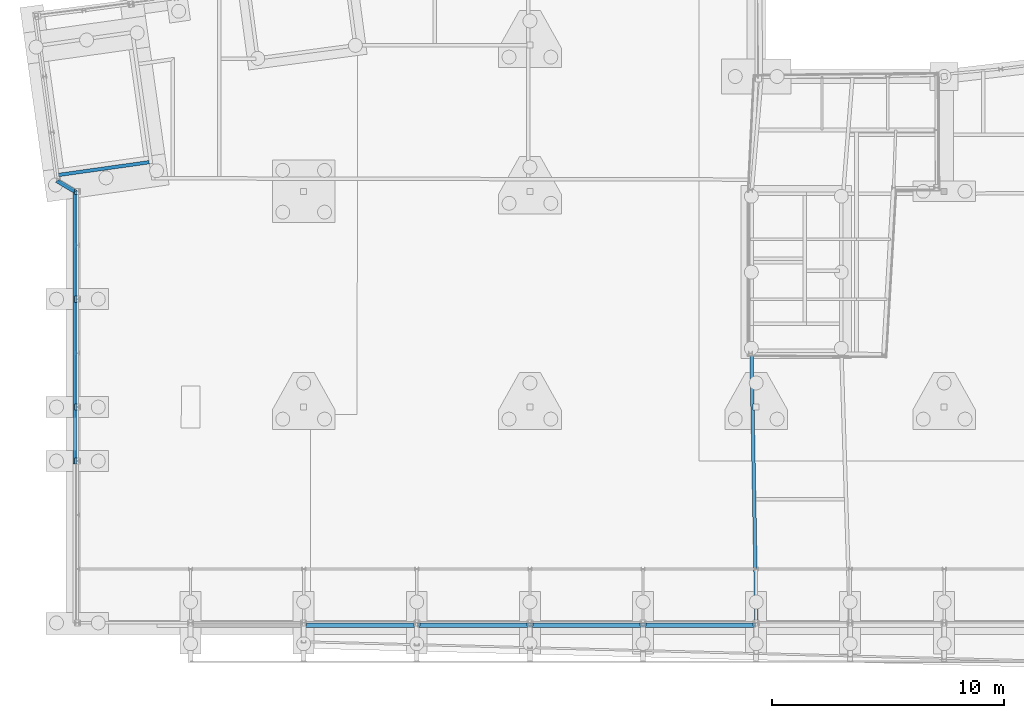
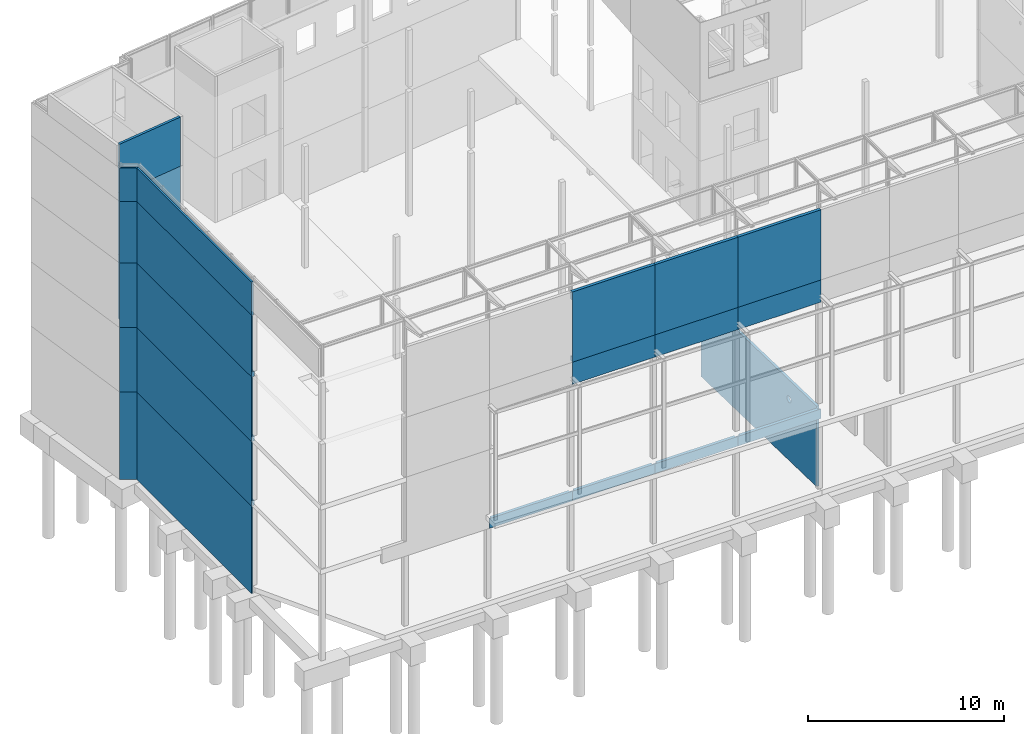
# One storey, part 69 of 82: 24 walls.
"""IFC2X3 building model written with IfcOpenShell, lengths in millimetres."""

from ifc_helpers import new_model, si_unit, frame, frame_2d, origin_with_axes, place, context, subcontext, project, spatial, rectangle, circle, extrude, boolean, clip, halfspace, material, layer, layer_set, layer_usage, type_object, element, save


model = new_model("IFC2X3")

# Units and contexts
model_context = context("Model", 3, precision=1e-05, world=origin_with_axes())
body_context = subcontext(model_context, "Body", "Model", "MODEL_VIEW")
ifc_project = project(units=[si_unit("LENGTHUNIT", "METRE", prefix="MILLI"), si_unit("AREAUNIT", "SQUARE_METRE"), si_unit("VOLUMEUNIT", "CUBIC_METRE"), si_unit("MASSUNIT", "GRAM", prefix="KILO"), si_unit("TIMEUNIT", "SECOND"), si_unit("PLANEANGLEUNIT", "RADIAN"), si_unit("SOLIDANGLEUNIT", "STERADIAN"), si_unit("THERMODYNAMICTEMPERATUREUNIT", "DEGREE_CELSIUS"), si_unit("LUMINOUSINTENSITYUNIT", "LUMEN")], contexts=[model_context])

# Site, building, storey
site_placement = place(None, origin_with_axes())
site = spatial("IfcSite", under=ifc_project, at=site_placement, Name="Undefined", CompositionType="ELEMENT")
building_placement = place(site_placement, origin_with_axes())
building = spatial("IfcBuilding", under=site, at=building_placement, Name="Undefined", CompositionType="ELEMENT")
storey_placement = place(building_placement, origin_with_axes())
storey = spatial("IfcBuildingStorey", under=building, at=storey_placement, Name="Undefined", CompositionType="ELEMENT", Elevation=0.0)

# Walls
ifc_material_1 = material(Name="CONCRETE/C25/30")
wall_type_1 = type_object("IfcWallType", Name="3830*150", PredefinedType="NOTDEFINED")
wall_1_placement = place(storey_placement, frame((3091.37342688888, 19851.8501837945, 13330.0000000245), z_axis=(0.0, 0.0, 1.0), x_axis=(-0.990268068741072, -0.13917310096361, 0.0)))
element("IfcWall", 1, at=wall_1_placement, inside=storey, type_object=wall_type_1, material=ifc_material_1, Name="VOILE_15CM", ObjectType="3830*150", context=body_context, shape_type="Clipping", body=[
    clip(extrude(rectangle(XDim=4034.80419967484, YDim=150.0, at=frame_2d((0.0, 2017.53498920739), x_axis=(0.0, -1.0))), frame((0.0, 0.0, 0.0), z_axis=(0.0, 0.0, 1.0), x_axis=(-2.77555756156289e-17, -1.0, 0.0)), (0.0, 0.0, 1.0), 3830.0), halfspace(frame((3944.80287529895, -3.43170540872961e-08, 915.0), z_axis=(-0.999975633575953, 0.00698084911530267, 0.0), x_axis=(0.00698084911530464, 0.999975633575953, 0.0)), True)),
])
wall_type_2 = type_object("IfcWallType", Name="4025*150", PredefinedType="NOTDEFINED")
wall_2_placement = place(storey_placement, frame((3091.37342688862, 19851.8501837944, 9305.00000002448), z_axis=(0.0, 0.0, 1.0), x_axis=(-0.990268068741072, -0.13917310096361, 0.0)))
element("IfcWall", 2, at=wall_2_placement, inside=storey, type_object=wall_type_2, material=ifc_material_1, Name="VOILE_15CM", ObjectType="4025*150", context=body_context, shape_type="Clipping", body=[
    clip(extrude(rectangle(XDim=4034.80419967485, YDim=150.0, at=frame_2d((0.0, 2017.53498920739), x_axis=(0.0, -1.0))), frame((0.0, 0.0, 0.0), z_axis=(0.0, 0.0, 1.0), x_axis=(-2.77555756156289e-17, -1.0, 0.0)), (0.0, 0.0, 1.0), 4025.0), halfspace(frame((3944.80287529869, -3.43170540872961e-08, 1012.5), z_axis=(-0.999975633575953, 0.00698084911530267, 0.0), x_axis=(0.00698084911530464, 0.999975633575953, 0.0)), True)),
])
wall_type_3 = type_object("IfcWallType", Name="2071*115", PredefinedType="NOTDEFINED")
wall_3_placement = place(storey_placement, frame((-165.609030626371, 18590.8674172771, 16860.0), z_axis=(0.0, 0.0, 1.0), x_axis=(-0.859493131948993, 0.511147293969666, 0.0)))
element("IfcWall", 3, at=wall_3_placement, inside=storey, type_object=wall_type_3, material=ifc_material_1, Name="PANNEAU_FACADE", ObjectType="2071*115", context=body_context, shape_type="Clipping", body=[
    clip(clip(extrude(rectangle(XDim=1461.33181391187, YDim=115.0, at=frame_2d((0.0, 412.072794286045), x_axis=(0.0, -1.0))), frame((0.0, 0.0, 0.0), z_axis=(0.0, 0.0, 1.0), x_axis=(-2.77555756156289e-17, -1.0, 0.0)), (0.0, 0.0, 1.0), 2071.0), halfspace(frame((884.683329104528, 57.5000000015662, 1035.50000000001), z_axis=(-0.900091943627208, 0.435700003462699, 0.0), x_axis=(0.0, 0.0, 1.0)), True)), halfspace(frame((3.31783667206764e-09, 57.5000000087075, 1035.5), z_axis=(-0.869237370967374, 0.494394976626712, 0.0), x_axis=(0.0, 0.0, 1.0)), False)),
])
wall_4_placement = place(storey_placement, frame((-137.501090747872, 6842.79622352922, 16860.0), z_axis=(0.0, 0.0, 1.0), x_axis=(0.0, 1.0, 0.0)))
element("IfcWall", 4, at=wall_4_placement, inside=storey, type_object=wall_type_3, material=ifc_material_1, Name="PANNEAU_FACADE", ObjectType="2071*115", context=body_context, shape_type="Clipping", body=[
    clip(extrude(rectangle(XDim=11803.3037923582, YDim=115.0, at=frame_2d((0.0, 5901.65189617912), x_axis=(0.0, -1.0))), frame((0.0, 0.0, 0.0), z_axis=(0.0, 0.0, 1.0), x_axis=(-2.77555756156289e-17, -1.0, 0.0)), (0.0, 0.0, 1.0), 2071.0), halfspace(frame((11698.6503349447, 57.4999999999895, 1035.50000000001), z_axis=(-0.869237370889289, -0.494394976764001, 0.0), x_axis=(0.0, 0.0, 1.0)), True)),
])
wall_type_4 = type_object("IfcWallType", Name="3061*150", PredefinedType="NOTDEFINED")
wall_5_placement = place(storey_placement, frame((3091.37342688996, 19851.8501837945, 17160.0000000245), z_axis=(0.0, 0.0, 1.0), x_axis=(-0.990268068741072, -0.13917310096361, 0.0)))
element("IfcWall", 5, at=wall_5_placement, inside=storey, type_object=wall_type_4, material=ifc_material_1, Name="VOILE_15CM", ObjectType="3061*150", context=body_context, shape_type="Clipping", body=[
    clip(extrude(rectangle(XDim=4034.80420078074, YDim=150.0, at=frame_2d((0.0, 2017.53498920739), x_axis=(0.0, -1.0))), frame((0.0, 0.0, 0.0), z_axis=(0.0, 0.0, 1.0), x_axis=(-2.77555756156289e-17, -1.0, 0.0)), (0.0, 0.0, 1.0), 3061.0), halfspace(frame((3945.33522363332, 76.256553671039, 1770.99999997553), z_axis=(-0.999975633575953, 0.00698084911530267, 0.0), x_axis=(0.0, 0.0, 1.0)), True)),
])
ifc_layer = layer(ifc_material_1, 180.0)
ifc_layer_set = layer_set([ifc_layer], Name="Wall: Insitu CONCRETE/C25/30")
ifc_layer_usage_1 = layer_usage(ifc_layer_set, "AXIS2", "POSITIVE", -90.0)
wall_type_5 = type_object("IfcWallType", Name="4370*180", PredefinedType="NOTDEFINED")
wall_6_placement = place(storey_placement, frame((19499.9999851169, -104.99999990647, 13030.0), z_axis=(0.0, 0.0, 1.0), x_axis=(-1.0, 0.0, 0.0)))
element("IfcWallStandardCase", 6, at=wall_6_placement, inside=storey, type_object=wall_type_5, material=ifc_layer_usage_1, Name="PANNEAU_FACADE", ObjectType="4370*180", context=body_context, shape_type="CSG", body=[
    boolean("DIFFERENCE", boolean("DIFFERENCE", extrude(rectangle(XDim=4874.99998420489, YDim=180.0, at=frame_2d((0.0, 2437.49999210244), x_axis=(0.0, -1.0))), frame((0.0, 0.0, 0.0), z_axis=(0.0, 0.0, 1.0), x_axis=(-2.77555756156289e-17, -1.0, 0.0)), (0.0, 0.0, 1.0), 4370.0), extrude(rectangle(XDim=265.0, YDim=265.0, at=frame_2d((5.17284206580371e-08, 4.49290382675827e-10), x_axis=(1.0, 0.0))), frame((-1.48822146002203e-05, -104.999999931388, 3830.0), z_axis=(0.0, -6.50000002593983e-08, -0.999999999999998), x_axis=(1.0, 0.0, 0.0)), (0.0, 0.0, 1.0), 3530.0)), extrude(rectangle(XDim=265.0, YDim=265.0, at=frame_2d((5.17284206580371e-08, 4.49290382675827e-10), x_axis=(1.0, 0.0))), frame((4874.99998511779, -104.999999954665, 3830.0), z_axis=(0.0, -6.50000002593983e-08, -0.999999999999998), x_axis=(1.0, 0.0, 0.0)), (0.0, 0.0, 1.0), 3530.0)),
])
ifc_layer_usage_2 = layer_usage(ifc_layer_set, "AXIS2", "POSITIVE", -90.0)
wall_7_placement = place(storey_placement, frame((24374.9999851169, -104.999999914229, 13030.0), z_axis=(0.0, 0.0, 1.0), x_axis=(-1.0, 0.0, 0.0)))
element("IfcWallStandardCase", 7, at=wall_7_placement, inside=storey, type_object=wall_type_5, material=ifc_layer_usage_2, Name="PANNEAU_FACADE", ObjectType="4370*180", context=body_context, shape_type="CSG", body=[
    boolean("DIFFERENCE", boolean("DIFFERENCE", extrude(rectangle(XDim=4874.99998420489, YDim=180.0, at=frame_2d((0.0, 2437.49999210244), x_axis=(0.0, -1.0))), frame((0.0, 0.0, 0.0), z_axis=(0.0, 0.0, 1.0), x_axis=(-2.77555756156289e-17, -1.0, 0.0)), (0.0, 0.0, 1.0), 4370.0), extrude(rectangle(XDim=260.0, YDim=260.0, at=frame_2d((5.17284206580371e-08, 4.49290382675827e-10), x_axis=(1.0, 0.0))), frame((4874.99998511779, -104.999999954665, 3830.0), z_axis=(0.0, -6.50000002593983e-08, -0.999999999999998), x_axis=(1.0, 0.0, 0.0)), (0.0, 0.0, 1.0), 3530.0)), extrude(rectangle(XDim=265.0, YDim=265.0, at=frame_2d((5.17284206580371e-08, 4.49290382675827e-10), x_axis=(1.0, 0.0))), frame((-1.48822146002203e-05, -104.999999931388, 3830.0), z_axis=(0.0, -6.50000002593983e-08, -0.999999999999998), x_axis=(1.0, 0.0, 0.0)), (0.0, 0.0, 1.0), 3530.0)),
])
ifc_layer_usage_3 = layer_usage(ifc_layer_set, "AXIS2", "POSITIVE", -90.0)
wall_8_placement = place(storey_placement, frame((29249.9999851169, -104.999999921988, 13030.0), z_axis=(0.0, 0.0, 1.0), x_axis=(-1.0, 0.0, 0.0)))
element("IfcWallStandardCase", 8, at=wall_8_placement, inside=storey, type_object=wall_type_5, material=ifc_layer_usage_3, Name="PANNEAU_FACADE", ObjectType="4370*180", context=body_context, shape_type="CSG", body=[
    boolean("DIFFERENCE", boolean("DIFFERENCE", extrude(rectangle(XDim=4874.99998420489, YDim=180.0, at=frame_2d((0.0, 2437.49999210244), x_axis=(0.0, -1.0))), frame((0.0, 0.0, 0.0), z_axis=(0.0, 0.0, 1.0), x_axis=(-2.77555756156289e-17, -1.0, 0.0)), (0.0, 0.0, 1.0), 4370.0), extrude(rectangle(XDim=265.0, YDim=265.0, at=frame_2d((5.17284206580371e-08, 4.49290382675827e-10), x_axis=(1.0, 0.0))), frame((-1.48822146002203e-05, -104.999999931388, 3830.0), z_axis=(0.0, -6.50000002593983e-08, -0.999999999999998), x_axis=(1.0, 0.0, 0.0)), (0.0, 0.0, 1.0), 3530.0)), extrude(rectangle(XDim=265.0, YDim=265.0, at=frame_2d((5.17284206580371e-08, 4.49290382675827e-10), x_axis=(1.0, 0.0))), frame((4874.99998511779, -104.999999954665, 3830.0), z_axis=(0.0, -6.50000002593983e-08, -0.999999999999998), x_axis=(1.0, 0.0, 0.0)), (0.0, 0.0, 1.0), 3530.0)),
])
wall_type_6 = type_object("IfcWallType", Name="3830*180", PredefinedType="NOTDEFINED")
wall_9_placement = place(storey_placement, frame((-61.0031176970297, 18566.4704459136, 13030.0), z_axis=(0.0, 0.0, 1.0), x_axis=(-0.859493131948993, 0.511147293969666, 0.0)))
element("IfcWall", 9, at=wall_9_placement, inside=storey, type_object=wall_type_6, material=ifc_material_1, Name="PANNEAU_FACADE", ObjectType="3830*180", context=body_context, shape_type="CSG", body=[
    boolean("DIFFERENCE", boolean("DIFFERENCE", boolean("DIFFERENCE", extrude(rectangle(XDim=1787.26355416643, YDim=180.0, at=frame_2d((0.0, 497.342812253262), x_axis=(0.0, -1.0))), frame((0.0, 0.0, 0.0), z_axis=(0.0, 0.0, 1.0), x_axis=(-2.77555756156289e-17, -1.0, 0.0)), (0.0, 0.0, 1.0), 3830.0), extrude(rectangle(XDim=265.0, YDim=265.0, at=frame_2d((5.17284206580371e-08, 4.49290382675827e-10), x_axis=(1.0, 0.0))), frame((-35.2931652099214, -60.0000918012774, 3830.0), z_axis=(0.0, -6.50000002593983e-08, -0.999999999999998), x_axis=(-0.511147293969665, 0.859493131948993, 0.0)), (0.0, 0.0, 1.0), 3530.0)), halfspace(frame((987.061838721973, 90.000000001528, 1915.0), z_axis=(-0.900091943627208, 0.435700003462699, 0.0), x_axis=(0.0, 0.0, 1.0)), True)), halfspace(frame((102.378509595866, 90.0000000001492, 1915.0), z_axis=(-0.869237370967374, 0.494394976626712, 0.0), x_axis=(0.0, 0.0, 1.0)), False)),
])
wall_10_placement = place(storey_placement, frame((-105.000000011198, 6842.80075399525, 13030.0), z_axis=(0.0, 0.0, 1.0), x_axis=(0.0, 1.0, 0.0)))
element("IfcWall", 10, at=wall_10_placement, inside=storey, type_object=wall_type_6, material=ifc_material_1, Name="PANNEAU_FACADE", ObjectType="3830*180", context=body_context, shape_type="CSG", body=[
    boolean("DIFFERENCE", boolean("DIFFERENCE", boolean("DIFFERENCE", boolean("DIFFERENCE", boolean("DIFFERENCE", extrude(rectangle(XDim=11862.4511650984, YDim=180.0, at=frame_2d((0.0, 5931.22558254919), x_axis=(0.0, -1.0))), frame((0.0, 0.0, 0.0), z_axis=(0.0, 0.0, 1.0), x_axis=(-2.77555756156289e-17, -1.0, 0.0)), (0.0, 0.0, 1.0), 3830.0), extrude(rectangle(XDim=265.0, YDim=265.0, at=frame_2d((5.17284206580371e-08, 4.49290382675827e-10), x_axis=(1.0, 0.0))), frame((11757.1993528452, -104.999999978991, 3830.0), z_axis=(0.0, -6.50000002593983e-08, -0.999999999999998), x_axis=(-1.0, 0.0, 0.0)), (0.0, 0.0, 1.0), 3530.0)), extrude(rectangle(XDim=265.0, YDim=265.0, at=frame_2d((5.17284206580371e-08, 4.49290382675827e-10), x_axis=(1.0, 0.0))), frame((7107.20354901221, -104.999999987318, 3830.0), z_axis=(0.0, -6.50000002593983e-08, -0.999999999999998), x_axis=(-1.0, 0.0, 0.0)), (0.0, 0.0, 1.0), 3530.0)), extrude(rectangle(XDim=265.0, YDim=265.0, at=frame_2d((5.17284206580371e-08, 4.49290382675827e-10), x_axis=(1.0, 0.0))), frame((2457.20297680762, -104.999999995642, 3830.0), z_axis=(0.0, -6.50000002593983e-08, -0.999999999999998), x_axis=(-1.0, 0.0, 0.0)), (0.0, 0.0, 1.0), 3530.0)), extrude(rectangle(XDim=265.0, YDim=265.0, at=frame_2d((5.17284206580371e-08, 4.49290382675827e-10), x_axis=(1.0, 0.0))), frame((132.202976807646, -104.999999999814, 3830.0), z_axis=(0.0, -6.50000002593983e-08, -0.999999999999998), x_axis=(-1.0, 0.0, 0.0)), (0.0, 0.0, 1.0), 3530.0)), halfspace(frame((11698.6458081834, 90.0000000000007, 1915.0), z_axis=(-0.869237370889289, -0.494394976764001, 0.0), x_axis=(0.0, 0.0, 1.0)), True)),
])
ifc_layer_usage_4 = layer_usage(ifc_layer_set, "AXIS2", "POSITIVE", -90.0)
wall_type_7 = type_object("IfcWallType", Name="1380*180", PredefinedType="NOTDEFINED")
wall_11_placement = place(storey_placement, frame((19500.0000464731, -104.99999990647, 11650.0), z_axis=(0.0, 0.0, 1.0), x_axis=(-1.0, 0.0, 0.0)))
element("IfcWallStandardCase", 11, at=wall_11_placement, inside=storey, type_object=wall_type_7, material=ifc_layer_usage_4, Name="PANNEAU_FACADE", ObjectType="1380*180", context=body_context, shape_type="CSG", body=[
    boolean("DIFFERENCE", boolean("DIFFERENCE", extrude(rectangle(XDim=4874.99998420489, YDim=180.0, at=frame_2d((0.0, 2437.49999210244), x_axis=(0.0, -1.0))), frame((0.0, 0.0, 0.0), z_axis=(0.0, 0.0, 1.0), x_axis=(-2.77555756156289e-17, -1.0, 0.0)), (0.0, 0.0, 1.0), 1380.0), extrude(rectangle(XDim=265.0, YDim=265.0, at=frame_2d((5.17284206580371e-08, 4.49290382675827e-10), x_axis=(1.0, 0.0))), frame((4875.00006226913, -104.999999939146, 1380.0), z_axis=(0.0, -6.50000002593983e-08, -0.999999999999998), x_axis=(1.0, 0.0, 0.0)), (0.0, 0.0, 1.0), 7730.0)), extrude(rectangle(XDim=265.0, YDim=265.0, at=frame_2d((5.17284206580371e-08, 4.49290382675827e-10), x_axis=(1.0, 0.0))), frame((6.22691295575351e-05, -104.99999991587, 1380.0), z_axis=(0.0, -6.50000002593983e-08, -0.999999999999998), x_axis=(1.0, 0.0, 0.0)), (0.0, 0.0, 1.0), 7730.0)),
])
ifc_layer_usage_5 = layer_usage(ifc_layer_set, "AXIS2", "POSITIVE", -90.0)
wall_12_placement = place(storey_placement, frame((24375.000030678, -104.999999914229, 11650.0), z_axis=(0.0, 0.0, 1.0), x_axis=(-1.0, 0.0, 0.0)))
element("IfcWallStandardCase", 12, at=wall_12_placement, inside=storey, type_object=wall_type_7, material=ifc_layer_usage_5, Name="PANNEAU_FACADE", ObjectType="1380*180", context=body_context, shape_type="CSG", body=[
    boolean("DIFFERENCE", boolean("DIFFERENCE", extrude(rectangle(XDim=4874.99998420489, YDim=180.0, at=frame_2d((0.0, 2437.49999210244), x_axis=(0.0, -1.0))), frame((0.0, 0.0, 0.0), z_axis=(0.0, 0.0, 1.0), x_axis=(-2.77555756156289e-17, -1.0, 0.0)), (0.0, 0.0, 1.0), 1380.0), extrude(rectangle(XDim=265.0, YDim=265.0, at=frame_2d((5.17284206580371e-08, 4.49290382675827e-10), x_axis=(1.0, 0.0))), frame((4875.00006226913, -104.999999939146, 1380.0), z_axis=(0.0, -6.50000002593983e-08, -0.999999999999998), x_axis=(1.0, 0.0, 0.0)), (0.0, 0.0, 1.0), 7730.0)), extrude(rectangle(XDim=265.0, YDim=265.0, at=frame_2d((5.17284206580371e-08, 4.49290382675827e-10), x_axis=(1.0, 0.0))), frame((6.22691295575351e-05, -104.99999991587, 1380.0), z_axis=(0.0, -6.50000002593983e-08, -0.999999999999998), x_axis=(1.0, 0.0, 0.0)), (0.0, 0.0, 1.0), 7730.0)),
])
ifc_layer_usage_6 = layer_usage(ifc_layer_set, "AXIS2", "POSITIVE", -90.0)
wall_13_placement = place(storey_placement, frame((29250.0000148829, -104.999999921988, 11650.0), z_axis=(0.0, 0.0, 1.0), x_axis=(-1.0, 0.0, 0.0)))
element("IfcWallStandardCase", 13, at=wall_13_placement, inside=storey, type_object=wall_type_7, material=ifc_layer_usage_6, Name="PANNEAU_FACADE", ObjectType="1380*180", context=body_context, shape_type="CSG", body=[
    boolean("DIFFERENCE", boolean("DIFFERENCE", extrude(rectangle(XDim=4874.99998420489, YDim=180.0, at=frame_2d((0.0, 2437.49999210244), x_axis=(0.0, -1.0))), frame((0.0, 0.0, 0.0), z_axis=(0.0, 0.0, 1.0), x_axis=(-2.77555756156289e-17, -1.0, 0.0)), (0.0, 0.0, 1.0), 1380.0), extrude(rectangle(XDim=265.0, YDim=265.0, at=frame_2d((5.17284206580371e-08, 4.49290382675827e-10), x_axis=(1.0, 0.0))), frame((4875.00006226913, -104.999999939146, 1380.0), z_axis=(0.0, -6.50000002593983e-08, -0.999999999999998), x_axis=(1.0, 0.0, 0.0)), (0.0, 0.0, 1.0), 7730.0)), extrude(rectangle(XDim=265.0, YDim=265.0, at=frame_2d((5.17284206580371e-08, 4.49290382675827e-10), x_axis=(1.0, 0.0))), frame((6.22691295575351e-05, -104.99999991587, 1380.0), z_axis=(0.0, -6.50000002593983e-08, -0.999999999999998), x_axis=(1.0, 0.0, 0.0)), (0.0, 0.0, 1.0), 7730.0)),
])
wall_type_8 = type_object("IfcWallType", Name="4025*180", PredefinedType="NOTDEFINED")
wall_14_placement = place(storey_placement, frame((-61.0031176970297, 18566.4704459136, 9005.0), z_axis=(0.0, 0.0, 1.0), x_axis=(-0.859493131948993, 0.511147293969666, 0.0)))
element("IfcWall", 14, at=wall_14_placement, inside=storey, type_object=wall_type_8, material=ifc_material_1, Name="PANNEAU_FACADE", ObjectType="4025*180", context=body_context, shape_type="CSG", body=[
    boolean("DIFFERENCE", boolean("DIFFERENCE", boolean("DIFFERENCE", extrude(rectangle(XDim=1787.26355416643, YDim=180.0, at=frame_2d((0.0, 497.342812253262), x_axis=(0.0, -1.0))), frame((0.0, 0.0, 0.0), z_axis=(0.0, 0.0, 1.0), x_axis=(-2.77555756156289e-17, -1.0, 0.0)), (0.0, 0.0, 1.0), 4025.0), extrude(rectangle(XDim=265.0, YDim=265.0, at=frame_2d((5.17284206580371e-08, 4.49290382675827e-10), x_axis=(1.0, 0.0))), frame((-35.2931652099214, -60.0000918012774, 4025.0), z_axis=(0.0, -6.50000002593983e-08, -0.999999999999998), x_axis=(-0.511147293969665, 0.859493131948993, 0.0)), (0.0, 0.0, 1.0), 3725.0)), halfspace(frame((987.061838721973, 90.000000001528, 2012.5), z_axis=(-0.900091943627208, 0.435700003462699, 0.0), x_axis=(0.0, 0.0, 1.0)), True)), halfspace(frame((102.378509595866, 90.0000000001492, 2012.5), z_axis=(-0.869237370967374, 0.494394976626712, 0.0), x_axis=(0.0, 0.0, 1.0)), False)),
])
wall_15_placement = place(storey_placement, frame((-105.000000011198, 6842.80075399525, 9005.0), z_axis=(0.0, 0.0, 1.0), x_axis=(0.0, 1.0, 0.0)))
element("IfcWall", 15, at=wall_15_placement, inside=storey, type_object=wall_type_8, material=ifc_material_1, Name="PANNEAU_FACADE", ObjectType="4025*180", context=body_context, shape_type="CSG", body=[
    boolean("DIFFERENCE", boolean("DIFFERENCE", boolean("DIFFERENCE", boolean("DIFFERENCE", boolean("DIFFERENCE", extrude(rectangle(XDim=11862.4511650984, YDim=180.0, at=frame_2d((0.0, 5931.22558254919), x_axis=(0.0, -1.0))), frame((0.0, 0.0, 0.0), z_axis=(0.0, 0.0, 1.0), x_axis=(-2.77555756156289e-17, -1.0, 0.0)), (0.0, 0.0, 1.0), 4025.0), extrude(rectangle(XDim=265.0, YDim=265.0, at=frame_2d((5.17284206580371e-08, 4.49290382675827e-10), x_axis=(1.0, 0.0))), frame((11757.1993528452, -104.999999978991, 4025.0), z_axis=(0.0, -6.50000002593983e-08, -0.999999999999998), x_axis=(-1.0, 0.0, 0.0)), (0.0, 0.0, 1.0), 3725.0)), extrude(rectangle(XDim=265.0, YDim=265.0, at=frame_2d((5.17284206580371e-08, 4.49290382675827e-10), x_axis=(1.0, 0.0))), frame((7107.20354901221, -104.999999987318, 4025.0), z_axis=(0.0, -6.50000002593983e-08, -0.999999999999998), x_axis=(-1.0, 0.0, 0.0)), (0.0, 0.0, 1.0), 3725.0)), extrude(rectangle(XDim=265.0, YDim=265.0, at=frame_2d((5.17284206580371e-08, 4.49290382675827e-10), x_axis=(1.0, 0.0))), frame((2457.20297680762, -104.999999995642, 4025.0), z_axis=(0.0, -6.50000002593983e-08, -0.999999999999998), x_axis=(-1.0, 0.0, 0.0)), (0.0, 0.0, 1.0), 3725.0)), extrude(rectangle(XDim=265.0, YDim=265.0, at=frame_2d((5.17284206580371e-08, 4.49290382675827e-10), x_axis=(1.0, 0.0))), frame((132.202976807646, -104.999999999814, 4025.0), z_axis=(0.0, -6.50000002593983e-08, -0.999999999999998), x_axis=(-1.0, 0.0, 0.0)), (0.0, 0.0, 1.0), 3725.0)), halfspace(frame((11698.6458081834, 90.0000000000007, 2012.5), z_axis=(-0.869237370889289, -0.494394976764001, 0.0), x_axis=(0.0, 0.0, 1.0)), True)),
])
ifc_layer_usage_7 = layer_usage(ifc_layer_set, "AXIS2", "POSITIVE", -90.0)
wall_type_9 = type_object("IfcWallType", Name="600*180", PredefinedType="NOTDEFINED")
wall_16_placement = place(storey_placement, frame((14625.0001272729, -104.999999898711, 4400.0), z_axis=(0.0, 0.0, 1.0), x_axis=(-1.0, 0.0, 0.0)))
element("IfcWallStandardCase", 16, at=wall_16_placement, inside=storey, type_object=wall_type_9, material=ifc_layer_usage_7, Name="PANNEAU_FACADE", ObjectType="600*180", context=body_context, shape_type="CSG", body=[
    boolean("DIFFERENCE", boolean("DIFFERENCE", extrude(rectangle(XDim=4874.99998420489, YDim=180.0, at=frame_2d((0.0, 2437.49999210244), x_axis=(0.0, -1.0))), frame((0.0, 0.0, 0.0), z_axis=(0.0, 0.0, 1.0), x_axis=(-2.77555756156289e-17, -1.0, 0.0)), (0.0, 0.0, 1.0), 600.0), extrude(rectangle(XDim=265.0, YDim=265.0, at=frame_2d((5.17284206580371e-08, 4.49290382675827e-10), x_axis=(1.0, 0.0))), frame((4875.00012811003, -105.000000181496, 11800.0), z_axis=(0.0, -6.50000002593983e-08, -0.999999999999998), x_axis=(1.0, 0.0, 0.0)), (0.0, 0.0, 1.0), 16650.0)), extrude(rectangle(XDim=265.0, YDim=265.0, at=frame_2d((5.17284206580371e-08, 4.49290382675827e-10), x_axis=(1.0, 0.0))), frame((0.000128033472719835, -105.000000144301, 11800.0), z_axis=(0.0, -6.50000002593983e-08, -0.999999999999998), x_axis=(1.0, 0.0, 0.0)), (0.0, 0.0, 1.0), 16650.0)),
])
ifc_layer_usage_8 = layer_usage(ifc_layer_set, "AXIS2", "POSITIVE", -90.0)
wall_17_placement = place(storey_placement, frame((19500.0001114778, -104.99999990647, 4400.0), z_axis=(0.0, 0.0, 1.0), x_axis=(-1.0, 0.0, 0.0)))
element("IfcWallStandardCase", 17, at=wall_17_placement, inside=storey, type_object=wall_type_9, material=ifc_layer_usage_8, Name="PANNEAU_FACADE", ObjectType="600*180", context=body_context, shape_type="CSG", body=[
    boolean("DIFFERENCE", boolean("DIFFERENCE", extrude(rectangle(XDim=4874.99998420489, YDim=180.0, at=frame_2d((0.0, 2437.49999210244), x_axis=(0.0, -1.0))), frame((0.0, 0.0, 0.0), z_axis=(0.0, 0.0, 1.0), x_axis=(-2.77555756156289e-17, -1.0, 0.0)), (0.0, 0.0, 1.0), 600.0), extrude(rectangle(XDim=265.0, YDim=265.0, at=frame_2d((5.17284206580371e-08, 4.49290382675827e-10), x_axis=(1.0, 0.0))), frame((4875.00012811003, -105.000000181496, 11800.0), z_axis=(0.0, -6.50000002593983e-08, -0.999999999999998), x_axis=(1.0, 0.0, 0.0)), (0.0, 0.0, 1.0), 16650.0)), extrude(rectangle(XDim=265.0, YDim=265.0, at=frame_2d((5.17284206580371e-08, 4.49290382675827e-10), x_axis=(1.0, 0.0))), frame((0.000128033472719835, -105.000000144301, 11800.0), z_axis=(0.0, -6.50000002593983e-08, -0.999999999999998), x_axis=(1.0, 0.0, 0.0)), (0.0, 0.0, 1.0), 16650.0)),
])
ifc_layer_usage_9 = layer_usage(ifc_layer_set, "AXIS2", "POSITIVE", -90.0)
wall_18_placement = place(storey_placement, frame((24375.0000956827, -104.999999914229, 4400.0), z_axis=(0.0, 0.0, 1.0), x_axis=(-1.0, 0.0, 0.0)))
element("IfcWallStandardCase", 18, at=wall_18_placement, inside=storey, type_object=wall_type_9, material=ifc_layer_usage_9, Name="PANNEAU_FACADE", ObjectType="600*180", context=body_context, shape_type="CSG", body=[
    boolean("DIFFERENCE", boolean("DIFFERENCE", extrude(rectangle(XDim=4874.99998420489, YDim=180.0, at=frame_2d((0.0, 2437.49999210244), x_axis=(0.0, -1.0))), frame((0.0, 0.0, 0.0), z_axis=(0.0, 0.0, 1.0), x_axis=(-2.77555756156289e-17, -1.0, 0.0)), (0.0, 0.0, 1.0), 600.0), extrude(rectangle(XDim=265.0, YDim=265.0, at=frame_2d((5.17284206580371e-08, 4.49290382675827e-10), x_axis=(1.0, 0.0))), frame((4875.00012811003, -105.000000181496, 11800.0), z_axis=(0.0, -6.50000002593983e-08, -0.999999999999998), x_axis=(1.0, 0.0, 0.0)), (0.0, 0.0, 1.0), 16650.0)), extrude(rectangle(XDim=265.0, YDim=265.0, at=frame_2d((5.17284206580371e-08, 4.49290382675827e-10), x_axis=(1.0, 0.0))), frame((0.000128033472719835, -105.000000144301, 11800.0), z_axis=(0.0, -6.50000002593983e-08, -0.999999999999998), x_axis=(1.0, 0.0, 0.0)), (0.0, 0.0, 1.0), 16650.0)),
])
ifc_layer_usage_10 = layer_usage(ifc_layer_set, "AXIS2", "POSITIVE", -90.0)
wall_19_placement = place(storey_placement, frame((29250.0000798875, -104.999999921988, 4400.0), z_axis=(0.0, 0.0, 1.0), x_axis=(-1.0, 0.0, 0.0)))
element("IfcWallStandardCase", 19, at=wall_19_placement, inside=storey, type_object=wall_type_9, material=ifc_layer_usage_10, Name="PANNEAU_FACADE", ObjectType="600*180", context=body_context, shape_type="CSG", body=[
    boolean("DIFFERENCE", boolean("DIFFERENCE", extrude(rectangle(XDim=4874.99998420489, YDim=180.0, at=frame_2d((0.0, 2437.49999210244), x_axis=(0.0, -1.0))), frame((0.0, 0.0, 0.0), z_axis=(0.0, 0.0, 1.0), x_axis=(-2.77555756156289e-17, -1.0, 0.0)), (0.0, 0.0, 1.0), 600.0), extrude(rectangle(XDim=265.0, YDim=265.0, at=frame_2d((5.17284206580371e-08, 4.49290382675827e-10), x_axis=(1.0, 0.0))), frame((4875.00012811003, -105.000000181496, 11800.0), z_axis=(0.0, -6.50000002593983e-08, -0.999999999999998), x_axis=(1.0, 0.0, 0.0)), (0.0, 0.0, 1.0), 16650.0)), extrude(rectangle(XDim=265.0, YDim=265.0, at=frame_2d((5.17284206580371e-08, 4.49290382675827e-10), x_axis=(1.0, 0.0))), frame((0.000128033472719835, -105.000000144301, 11800.0), z_axis=(0.0, -6.50000002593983e-08, -0.999999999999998), x_axis=(1.0, 0.0, 0.0)), (0.0, 0.0, 1.0), 16650.0)),
])
wall_type_10 = type_object("IfcWallType", Name="4005*180", PredefinedType="NOTDEFINED")
wall_20_placement = place(storey_placement, frame((-105.000000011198, 6842.80075399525, 5000.0), z_axis=(0.0, 0.0, 1.0), x_axis=(0.0, 1.0, 0.0)))
element("IfcWall", 20, at=wall_20_placement, inside=storey, type_object=wall_type_10, material=ifc_material_1, Name="PANNEAU_FACADE", ObjectType="4005*180", context=body_context, shape_type="CSG", body=[
    boolean("DIFFERENCE", boolean("DIFFERENCE", boolean("DIFFERENCE", boolean("DIFFERENCE", boolean("DIFFERENCE", extrude(rectangle(XDim=11862.4511650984, YDim=180.0, at=frame_2d((0.0, 5931.22558254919), x_axis=(0.0, -1.0))), frame((0.0, 0.0, 0.0), z_axis=(0.0, 0.0, 1.0), x_axis=(-2.77555756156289e-17, -1.0, 0.0)), (0.0, 0.0, 1.0), 4005.0), extrude(rectangle(XDim=265.0, YDim=265.0, at=frame_2d((5.17284206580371e-08, 4.49290382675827e-10), x_axis=(1.0, 0.0))), frame((11757.1993532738, -104.999999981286, 4125.0), z_axis=(0.0, -6.50000002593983e-08, -0.999999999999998), x_axis=(-1.0, 0.0, 0.0)), (0.0, 0.0, 1.0), 3830.0)), extrude(rectangle(XDim=265.0, YDim=265.0, at=frame_2d((5.17284206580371e-08, 4.49290382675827e-10), x_axis=(1.0, 0.0))), frame((7107.20354901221, -104.999999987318, 4025.0), z_axis=(0.0, -6.50000002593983e-08, -0.999999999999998), x_axis=(-1.0, 0.0, 0.0)), (0.0, 0.0, 1.0), 3725.0)), extrude(rectangle(XDim=265.0, YDim=265.0, at=frame_2d((5.17284206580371e-08, 4.49290382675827e-10), x_axis=(1.0, 0.0))), frame((2457.20297680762, -104.999999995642, 4025.0), z_axis=(0.0, -6.50000002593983e-08, -0.999999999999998), x_axis=(-1.0, 0.0, 0.0)), (0.0, 0.0, 1.0), 3725.0)), extrude(rectangle(XDim=265.0, YDim=265.0, at=frame_2d((5.17284206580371e-08, 4.49290382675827e-10), x_axis=(1.0, 0.0))), frame((132.202976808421, -104.999999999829, 4005.0), z_axis=(0.0, -6.50000002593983e-08, -0.999999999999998), x_axis=(-1.0, 0.0, 0.0)), (0.0, 0.0, 1.0), 3705.0)), halfspace(frame((11698.6458081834, 90.0000000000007, 2002.5), z_axis=(-0.869237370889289, -0.494394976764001, 0.0), x_axis=(0.0, 0.0, 1.0)), True)),
])
wall_21_placement = place(storey_placement, frame((-61.0031176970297, 18566.4704459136, 5000.0), z_axis=(0.0, 0.0, 1.0), x_axis=(-0.859493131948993, 0.511147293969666, 0.0)))
element("IfcWall", 21, at=wall_21_placement, inside=storey, type_object=wall_type_10, material=ifc_material_1, Name="PANNEAU_FACADE", ObjectType="4005*180", context=body_context, shape_type="CSG", body=[
    boolean("DIFFERENCE", boolean("DIFFERENCE", boolean("DIFFERENCE", extrude(rectangle(XDim=1787.26355416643, YDim=180.0, at=frame_2d((0.0, 497.342812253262), x_axis=(0.0, -1.0))), frame((0.0, 0.0, 0.0), z_axis=(0.0, 0.0, 1.0), x_axis=(-2.77555756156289e-17, -1.0, 0.0)), (0.0, 0.0, 1.0), 4005.0), extrude(rectangle(XDim=265.0, YDim=265.0, at=frame_2d((5.17284206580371e-08, 4.49290382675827e-10), x_axis=(1.0, 0.0))), frame((-35.2931649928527, -60.0000921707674, 4125.0), z_axis=(0.0, -6.50000002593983e-08, -0.999999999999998), x_axis=(-0.511147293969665, 0.859493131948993, 0.0)), (0.0, 0.0, 1.0), 3830.0)), halfspace(frame((987.061838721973, 90.000000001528, 2002.5), z_axis=(-0.900091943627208, 0.435700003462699, 0.0), x_axis=(0.0, 0.0, 1.0)), True)), halfspace(frame((102.378509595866, 90.0000000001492, 2002.5), z_axis=(-0.869237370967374, 0.494394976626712, 0.0), x_axis=(0.0, 0.0, 1.0)), False)),
])
ifc_material_2 = material(Name="CONCRETE/BRIQUE")
wall_type_11 = type_object("IfcWallType", Name="5000*150", PredefinedType="NOTDEFINED")
wall_22_placement = place(storey_placement, frame((29260.001425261, 1.36048613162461, -7.27595761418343e-12), z_axis=(0.0, 0.0, 1.0), x_axis=(-0.0181379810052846, 0.999835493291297, 0.0)))
element("IfcWall", 22, at=wall_22_placement, inside=storey, type_object=wall_type_11, material=ifc_material_2, Name="MACONNERIE_15CM", ObjectType="5000*150", context=body_context, shape_type="CSG", body=[
    boolean("DIFFERENCE", boolean("DIFFERENCE", boolean("DIFFERENCE", boolean("DIFFERENCE", boolean("DIFFERENCE", boolean("DIFFERENCE", extrude(rectangle(XDim=11528.7902429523, YDim=150.0, at=frame_2d((0.0, 5764.39512147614), x_axis=(0.0, -1.0))), frame((0.0, 0.0, 0.0), z_axis=(0.0, 0.0, 1.0), x_axis=(-2.77555756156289e-17, -1.0, 0.0)), (0.0, 0.0, 1.0), 5000.0), extrude(circle(Radius=200.0, at=frame_2d((5.17284206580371e-08, 4.49290382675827e-10), x_axis=(1.0, 0.0))), frame((2846.92866598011, -85.0000000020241, 3800.00048828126), z_axis=(0.0, 1.0, 0.0), x_axis=(-1.0, 0.0, 0.0)), (0.0, 0.0, 1.0), 170.0)), extrude(circle(Radius=175.0, at=frame_2d((5.17284206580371e-08, 4.49290382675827e-10), x_axis=(1.0, 0.0))), frame((10913.4978089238, -85.0000000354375, 3799.99953460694), z_axis=(0.0, 1.0, 0.0), x_axis=(-1.0, 0.0, 0.0)), (0.0, 0.0, 1.0), 170.0)), extrude(rectangle(XDim=260.0, YDim=260.0, at=frame_2d((5.17284206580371e-08, 4.49290382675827e-10), x_axis=(1.0, 0.0))), frame((9297.29091817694, -158.658761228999, 16200.0), z_axis=(0.0, -6.50000002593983e-08, -0.999999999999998), x_axis=(0.0181379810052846, 0.999835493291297, 0.0)), (0.0, 0.0, 1.0), 16650.0)), extrude(rectangle(XDim=700.0, YDim=150.0, at=frame_2d((5.17284206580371e-08, 4.49290382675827e-10), x_axis=(1.0, 0.0))), frame((9920.83658079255, -85.0000000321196, 4139.99968719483), z_axis=(0.0, 1.0, 0.0), x_axis=(-1.0, 0.0, 0.0)), (0.0, 0.0, 1.0), 170.0)), halfspace(frame((11645.4778852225, 1.91503204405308e-08, 1500.0), z_axis=(-0.999835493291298, 0.0181379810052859, 0.0), x_axis=(0.0181379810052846, 0.999835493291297, 0.0)), True)), halfspace(frame((128.660679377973, 8.33097146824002e-10, 1500.0), z_axis=(0.999835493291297, -0.0181379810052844, 0.0), x_axis=(-0.0181379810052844, -0.999835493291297, 0.0)), True)),
])
wall_type_12 = type_object("IfcWallType", Name="5450*180", PredefinedType="NOTDEFINED")
wall_23_placement = place(storey_placement, frame((-105.000000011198, 6842.80075399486, -450.0), z_axis=(0.0, 0.0, 1.0), x_axis=(0.0, 1.0, 0.0)))
element("IfcWall", 23, at=wall_23_placement, inside=storey, type_object=wall_type_12, material=ifc_material_1, Name="PANNEAU_FACADE", ObjectType="5450*180", context=body_context, shape_type="CSG", body=[
    boolean("DIFFERENCE", boolean("DIFFERENCE", boolean("DIFFERENCE", boolean("DIFFERENCE", boolean("DIFFERENCE", extrude(rectangle(XDim=11749.8349822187, YDim=180.0, at=frame_2d((0.0, 5874.91749110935), x_axis=(0.0, -1.0))), frame((0.0, 0.0, 0.0), z_axis=(0.0, 0.0, 1.0), x_axis=(-2.77555756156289e-17, -1.0, 0.0)), (0.0, 0.0, 1.0), 5450.0), extrude(rectangle(XDim=265.0, YDim=265.0, at=frame_2d((5.17284206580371e-08, 4.49290382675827e-10), x_axis=(1.0, 0.0))), frame((11757.1993528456, -104.999999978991, 16650.0), z_axis=(0.0, -6.50000002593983e-08, -0.999999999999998), x_axis=(-1.0, 0.0, 0.0)), (0.0, 0.0, 1.0), 16650.0)), extrude(rectangle(XDim=265.0, YDim=265.0, at=frame_2d((5.17284206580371e-08, 4.49290382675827e-10), x_axis=(1.0, 0.0))), frame((7107.20354901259, -104.999999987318, 16650.0), z_axis=(0.0, -6.50000002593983e-08, -0.999999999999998), x_axis=(-1.0, 0.0, 0.0)), (0.0, 0.0, 1.0), 16650.0)), extrude(rectangle(XDim=265.0, YDim=265.0, at=frame_2d((5.17284206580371e-08, 4.49290382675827e-10), x_axis=(1.0, 0.0))), frame((2457.202976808, -104.999999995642, 16650.0), z_axis=(0.0, -6.50000002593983e-08, -0.999999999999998), x_axis=(-1.0, 0.0, 0.0)), (0.0, 0.0, 1.0), 16650.0)), extrude(rectangle(XDim=265.0, YDim=265.0, at=frame_2d((5.17284206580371e-08, 4.49290382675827e-10), x_axis=(1.0, 0.0))), frame((132.202976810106, -105.000000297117, 16650.0), z_axis=(0.0, -6.50000002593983e-08, -0.999999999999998), x_axis=(-1.0, 0.0, 0.0)), (0.0, 0.0, 1.0), 16650.0)), halfspace(frame((11698.6458081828, 90.0000000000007, 2725.0), z_axis=(-0.869237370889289, -0.494394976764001, 0.0), x_axis=(0.0, 0.0, 1.0)), True)),
])
wall_24_placement = place(storey_placement, frame((-61.0031176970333, 18566.4704459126, -450.0), z_axis=(0.0, 0.0, 1.0), x_axis=(-0.859493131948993, 0.511147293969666, 0.0)))
element("IfcWall", 24, at=wall_24_placement, inside=storey, type_object=wall_type_12, material=ifc_material_1, Name="PANNEAU_FACADE", ObjectType="5450*180", context=body_context, shape_type="CSG", body=[
    boolean("DIFFERENCE", boolean("DIFFERENCE", boolean("DIFFERENCE", extrude(rectangle(XDim=1342.90560465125, YDim=180.0, at=frame_2d((0.0, 497.342812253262), x_axis=(0.0, -1.0))), frame((0.0, 0.0, 0.0), z_axis=(0.0, 0.0, 1.0), x_axis=(-2.77555756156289e-17, -1.0, 0.0)), (0.0, 0.0, 1.0), 5450.0), extrude(rectangle(XDim=265.0, YDim=265.0, at=frame_2d((5.17284206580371e-08, 4.49290382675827e-10), x_axis=(1.0, 0.0))), frame((-35.2931652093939, -60.0000918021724, 16650.0), z_axis=(0.0, -6.50000002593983e-08, -0.999999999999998), x_axis=(-0.511147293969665, 0.859493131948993, 0.0)), (0.0, 0.0, 1.0), 16650.0)), halfspace(frame((987.06183872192, 90.0000000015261, 2725.0), z_axis=(-0.900091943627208, 0.435700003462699, 0.0), x_axis=(0.0, 0.0, 1.0)), True)), halfspace(frame((102.378509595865, 90.0000000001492, 2725.0), z_axis=(-0.869237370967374, 0.494394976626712, 0.0), x_axis=(0.0, 0.0, 1.0)), False)),
])

save(model, "model.ifc")
